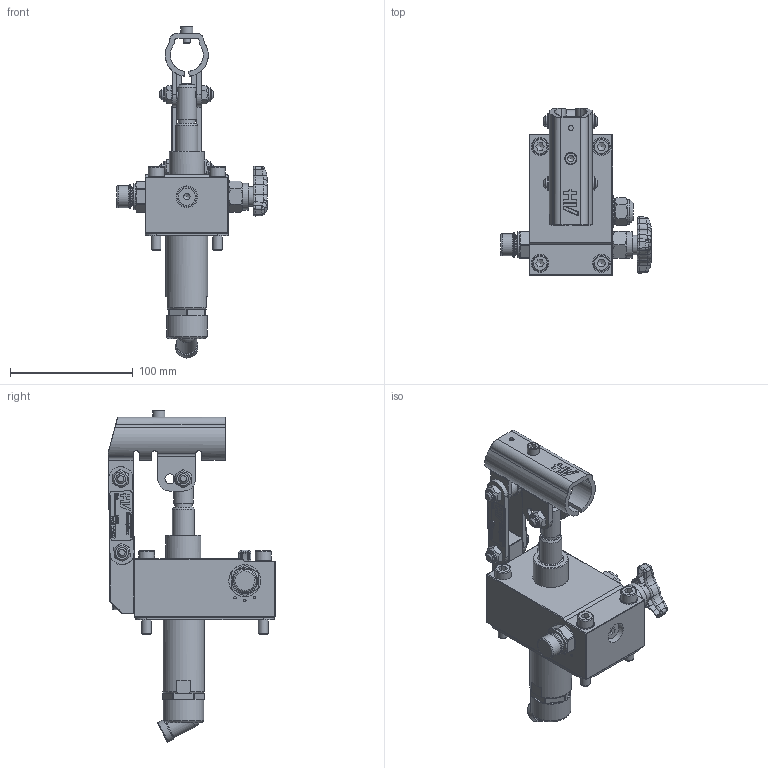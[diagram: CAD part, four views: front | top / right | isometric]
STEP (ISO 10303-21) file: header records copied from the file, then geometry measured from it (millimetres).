
FILE_DESCRIPTION((''),'2;1');
FILE_NAME('G:\HV_HYDRAULIC\AZIENDA_HV_HYDRAULIC\ARCHIVIO_DISEGNI\5_PRODOTTI_FINITI\1_POMPE_MANUALI\6051_PM_25\6051.7001_PM_25_byB_(HV)_(AISI_316)_(Viton)\6051.7001.stp','2024-02-28T13:42:40',('christian.scardovi'),(''),'Autodesk Inventor 2013','Autodesk Inventor 2013','');
FILE_SCHEMA(('AUTOMOTIVE_DESIGN { 1 0 10303 214 1 1 1 1 }'));
Length unit declared in the file: millimetre
Products named in the file (1): 6051.7001
Bounding box: 122.5 x 136 x 270.34 mm (x, y, z)
Surface area: 124123.3 mm2 (no closed solid volume)
Topology: 0 solids, 1 shells, 1610 faces, 3992 edges, 2500 vertices
Faces by surface type: plane 774, cylinder 326, bspline 232, cone 156, torus 118, sphere 4
Full cylindrical faces by diameter (mm): 2 x6, 4 x6, 5 x3, 6 x1, 6.5 x2, 6.8 x2, 8 x15, 8.917 x1, 9 x2, 9.2 x1, 10 x2, 10.376 x1, 11.05 x6, 12 x5, 13 x6, 13.2 x1, 14 x4, 14.5 x4, 14.95 x4, 16 x5, 16.6 x3, 17 x1, 17.5 x1, 17.6 x1, 18 x8, 20 x5, 21 x4, 21.8 x2, 22 x1, 25 x4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
Entity records: 53786 total; most frequent: CARTESIAN_POINT 17718, ORIENTED_EDGE 7300, DIRECTION 6704, EDGE_CURVE 3650, AXIS2_PLACEMENT_3D 2407, VERTEX_POINT 2403, EDGE_LOOP 2004, VECTOR 1890
